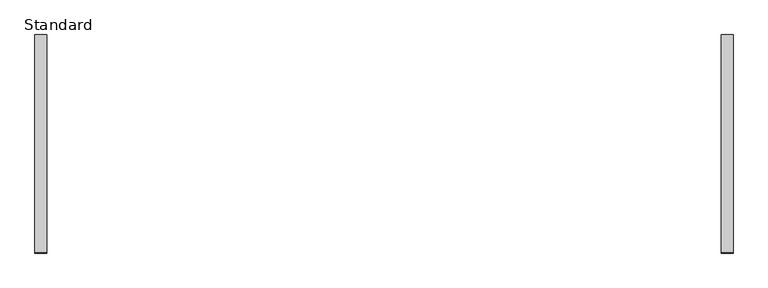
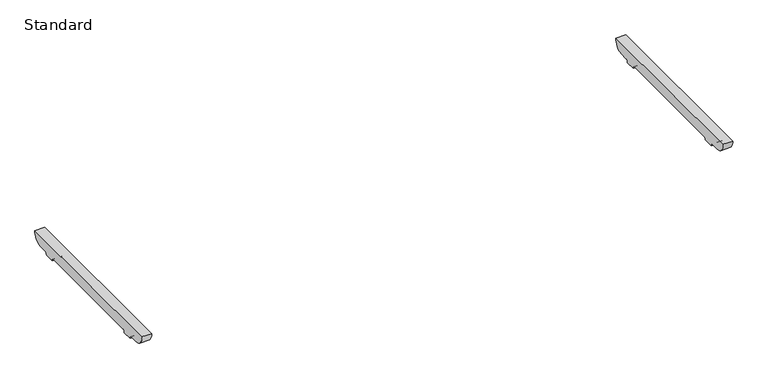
"""IFC4 building model written with IfcOpenShell, lengths in millimetres: furniture geometry, BDG_BossDesign_Tbls_AgentTables4Legs_Nested : Standard."""

from ifc_helpers import new_model, si_unit, point, frame, frame_2d, origin, place, context, project, spatial, polyline, circle_curve, trimmed, segment, composite_curve, outline, extrude, source, transform, mapped, element, save


def standard_a8cf723d(model_context):
    return source(origin(), model_context, "Body", "SweptSolid", [
        extrude(outline(composite_curve([segment(polyline([(380.5450184, 672.0), (342.7000122, 672.0)]), True, "CONTINUOUS"), segment(trimmed(circle_curve(frame_2d((342.7000122, 660.0)), 12.0), [point((342.7000122, 672.0))], [point((330.7000122, 660.0))], True, "CARTESIAN"), True, "CONTINUOUS"), segment(polyline([(330.7000122, 660.0), (285.7000122, 660.0)]), True, "CONTINUOUS"), segment(trimmed(circle_curve(frame_2d((273.7000122, 660.0)), 12.0), [point((285.7000122, 660.0))], [point((273.7000122, 672.0))], True, "CARTESIAN"), True, "CONTINUOUS"), segment(polyline([(273.7000122, 672.0), (-273.7000122, 672.0)]), True, "CONTINUOUS"), segment(trimmed(circle_curve(frame_2d((-273.7000122, 660.0)), 12.0), [point((-273.7000122, 672.0))], [point((-285.7000122, 660.0))], True, "CARTESIAN"), True, "CONTINUOUS"), segment(polyline([(-285.7000122, 660.0), (-330.7000122, 660.0)]), True, "CONTINUOUS"), segment(trimmed(circle_curve(frame_2d((-342.7000122, 660.0)), 12.0), [point((-330.7000122, 660.0))], [point((-342.7000122, 672.0))], True, "CARTESIAN"), True, "CONTINUOUS"), segment(polyline([(-342.7000122, 672.0), (-380.5450184, 672.0)]), True, "CONTINUOUS"), segment(trimmed(circle_curve(frame_2d((-378.2220439, 716.5514119)), 44.6119324), [point((-380.5450184, 672.0))], [point((-422.5, 722.0))], False, "CARTESIAN"), True, "CONTINUOUS"), segment(polyline([(-422.5, 722.0), (422.5, 722.0)]), True, "CONTINUOUS"), segment(trimmed(circle_curve(frame_2d((378.2220439, 716.5514119)), 44.6119324), [point((422.5, 722.0))], [point((380.5450184, 672.0))], False, "CARTESIAN"), True, "CONTINUOUS")], self_intersect=False)), frame((1305.0, 0.0, 0.0), z_axis=(1.0, 0.0, 0.0), x_axis=(0.0, 1.0, 0.0)), (0.0, 0.0, 1.0), 45.0),
        extrude(outline(composite_curve([segment(polyline([(380.5450184, 672.0), (342.7000122, 672.0)]), True, "CONTINUOUS"), segment(trimmed(circle_curve(frame_2d((342.7000122, 660.0)), 12.0), [point((342.7000122, 672.0))], [point((330.7000122, 660.0))], True, "CARTESIAN"), True, "CONTINUOUS"), segment(polyline([(330.7000122, 660.0), (285.7000122, 660.0)]), True, "CONTINUOUS"), segment(trimmed(circle_curve(frame_2d((273.7000122, 660.0)), 12.0), [point((285.7000122, 660.0))], [point((273.7000122, 672.0))], True, "CARTESIAN"), True, "CONTINUOUS"), segment(polyline([(273.7000122, 672.0), (-273.7000122, 672.0)]), True, "CONTINUOUS"), segment(trimmed(circle_curve(frame_2d((-273.7000122, 660.0)), 12.0), [point((-273.7000122, 672.0))], [point((-285.7000122, 660.0))], True, "CARTESIAN"), True, "CONTINUOUS"), segment(polyline([(-285.7000122, 660.0), (-330.7000122, 660.0)]), True, "CONTINUOUS"), segment(trimmed(circle_curve(frame_2d((-342.7000122, 660.0)), 12.0), [point((-330.7000122, 660.0))], [point((-342.7000122, 672.0))], True, "CARTESIAN"), True, "CONTINUOUS"), segment(polyline([(-342.7000122, 672.0), (-380.5450184, 672.0)]), True, "CONTINUOUS"), segment(trimmed(circle_curve(frame_2d((-378.2220439, 716.5514119)), 44.6119324), [point((-380.5450184, 672.0))], [point((-422.5, 722.0))], False, "CARTESIAN"), True, "CONTINUOUS"), segment(polyline([(-422.5, 722.0), (422.5, 722.0)]), True, "CONTINUOUS"), segment(trimmed(circle_curve(frame_2d((378.2220439, 716.5514119)), 44.6119324), [point((422.5, 722.0))], [point((380.5450184, 672.0))], False, "CARTESIAN"), True, "CONTINUOUS")], self_intersect=False)), frame((-1350.0, 0.0, 0.0), z_axis=(1.0, 0.0, 0.0), x_axis=(0.0, 1.0, 0.0)), (0.0, 0.0, 1.0), 45.0),
    ])


if __name__ == "__main__":
    model = new_model("IFC4")
    model_context = context("Model", 3, world=origin())
    ifc_project = project(units=[si_unit("LENGTHUNIT", "METRE", prefix="MILLI")], contexts=[model_context])
    site = spatial("IfcSite", under=ifc_project)
    building = spatial("IfcBuilding", under=site)
    placement = place(None, origin())
    standard_shape = standard_a8cf723d(model_context)
    element("IfcFurniture", 1, ObjectType="BDG_BossDesign_Tbls_AgentTables4Legs_Nested : Standard", at=placement, inside=building, context=model_context, shape_type="MappedRepresentation", body=[
        mapped(standard_shape, transform((0.0, 0.0, 0.0), x_axis=(1.0, 0.0, 0.0), y_axis=(0.0, 1.0, 0.0), z_axis=(0.0, 0.0, 1.0))),
    ])
    save(model, "model.ifc")
